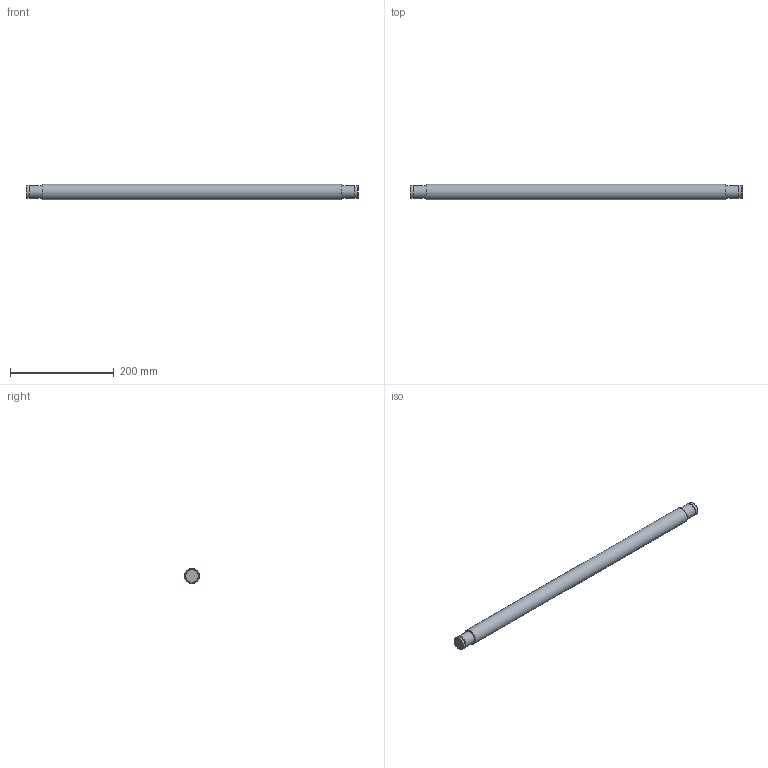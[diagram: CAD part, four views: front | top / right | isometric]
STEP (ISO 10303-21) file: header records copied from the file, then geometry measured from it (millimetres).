
FILE_DESCRIPTION(/* description */ (''),/* implementation_level */ '2;1');
FILE_NAME(/* name */ 'YR01.02.15.001-01_Ось ПШ.stp',/* time_stamp */ '2025-01-29T22:29:15+03:00',/* author */ (''),/* organization */ (''),/* preprocessor_version */ 'ST-DEVELOPER v18.1',/* originating_system */ 'SIEMENS PLM Software NX 1973',/* authorisation */ '');
FILE_SCHEMA (('AUTOMOTIVE_DESIGN { 1 0 10303 214 3 1 1 1 }'));
Length unit declared in the file: millimetre
Products named in the file (1): wp_YR01.02.15.001-01
Bounding box: 640 x 30 x 30 mm (x, y, z)
Volume: 438778.5 mm3; surface area: 60913.7 mm2
Topology: 1 solids, 1 shells, 19 faces, 31 edges, 20 vertices
Faces by surface type: plane 8, cylinder 7, cone 4
Full cylindrical faces by diameter (mm): 23.2 x2, 25 x4, 30 x1
Entity records: 398 total; most frequent: DIRECTION 76, CARTESIAN_POINT 56, AXIS2_PLACEMENT_3D 38, EDGE_LOOP 36, ORIENTED_EDGE 36, FACE_BOUND 34, ADVANCED_FACE 19, VERTEX_POINT 18
